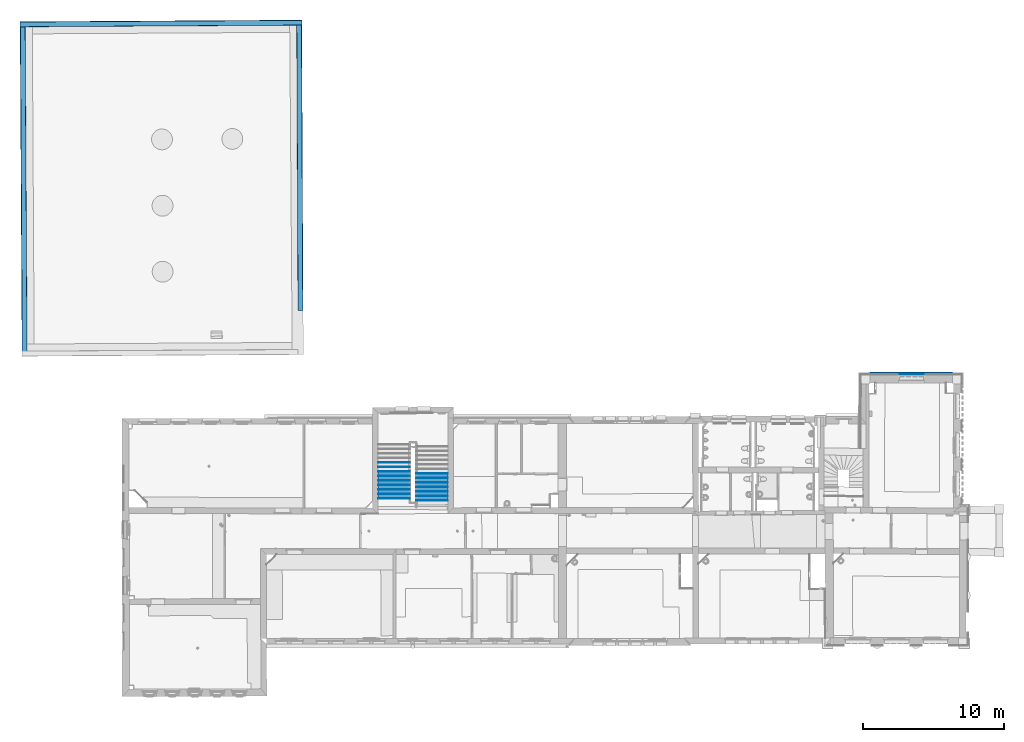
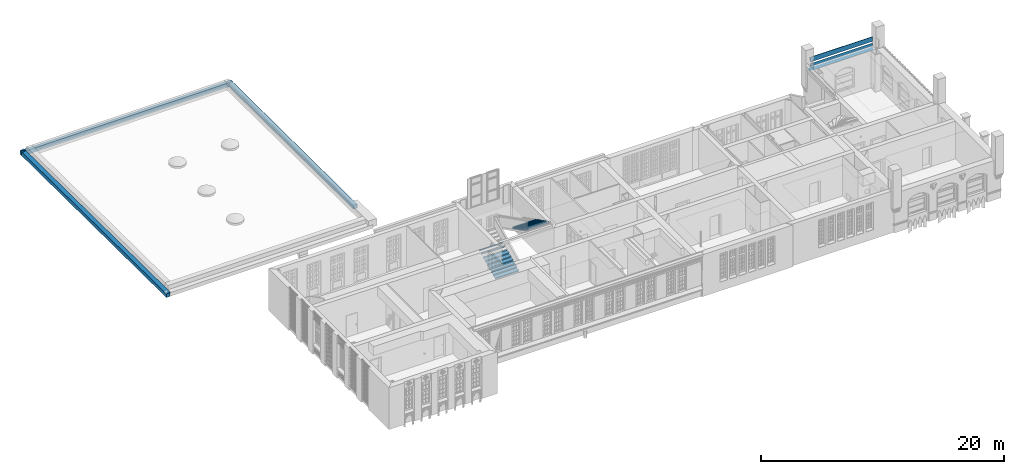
# One storey, part 42 of 90: 37 building element parts, 6 elements without a shape of their own.
"""IFC2X3 building model written with IfcOpenShell, lengths in metres."""

import ifcopenshell
import ifcopenshell.guid

model = None  # the IFC model being written
_history = None  # IfcOwnerHistory: only IFC2X3 demands one
_inside = {}  # id of a spatial element -> (the spatial element, [elements in it])
_under = {}  # id of a project, library or spatial element -> (it, [spatial elements below it])
_declared = {}  # id of a project -> (the project, [libraries it declares])
_typed = {}  # id of a type object -> (the type object, [elements of that type])
_made_of = {}  # id of a material, layer set ... -> (it, [elements and type objects made of it])


def new_model(schema):
    """Start an empty IFC model of exactly this schema.

    Asked for "IFC4X3", IfcOpenShell would pick the latest addendum, in which some entities
    have other attributes; the version numbers below select the first issue.
    IFC2X3 requires an IfcOwnerHistory on every rooted entity: one is made here for all.
    """
    global model, _history
    if schema == "IFC4X3":
        model = ifcopenshell.file(schema_version=(4, 3, 0, 0))
    else:
        model = ifcopenshell.file(schema=schema)
    _inside.clear()
    _under.clear()
    _declared.clear()
    _typed.clear()
    _made_of.clear()
    _history = None
    if model.schema == "IFC2X3":
        org = make("IfcOrganization", Name="unknown")
        user = make(
            "IfcPersonAndOrganization",
            ThePerson=make("IfcPerson", FamilyName="unknown"),
            TheOrganization=org,
        )
        app = make(
            "IfcApplication",
            ApplicationDeveloper=org,
            Version="unknown",
            ApplicationFullName="unknown",
            ApplicationIdentifier="unknown",
        )
        _history = make(
            "IfcOwnerHistory",
            OwningUser=user,
            OwningApplication=app,
            ChangeAction="ADDED",
            CreationDate=0,
        )
    return model


def make(cls, **values):
    """One entity of the class cls with the attributes given. An attribute that is None is left unset."""
    return model.create_entity(
        cls, **{name: value for name, value in values.items() if value is not None}
    )


def entity(cls, *values):
    """Any entity or typed value of the class cls, its attributes in the order of the schema. None: left unset."""
    e = model.create_entity(cls)
    for i, value in enumerate(values):
        if value is not None:
            e[i] = value
    return e


def rooted(cls, **values):
    """An entity with a GlobalId (a new one), such as an element, a storey or a relation."""
    return make(cls, GlobalId=ifcopenshell.guid.new(), OwnerHistory=_history, **values)


def si_unit(unit_type, name, prefix=None):
    """IfcSIUnit, for example si_unit("LENGTHUNIT", "METRE", prefix="MILLI")."""
    return make("IfcSIUnit", UnitType=unit_type, Prefix=prefix, Name=name)


def converted_unit(unit_type, name, factor, base, dimensions=None, offset=None):
    """IfcConversionBasedUnit, such as the inch: factor (a typed value) times the base unit."""
    return make(
        "IfcConversionBasedUnit"
        if offset is None
        else "IfcConversionBasedUnitWithOffset",
        ConversionOffset=offset,
        Dimensions=None
        if dimensions is None
        else entity("IfcDimensionalExponents", *dimensions),
        UnitType=unit_type,
        Name=name,
        ConversionFactor=make(
            "IfcMeasureWithUnit", ValueComponent=factor, UnitComponent=base
        ),
    )


def derived_unit(unit_type, elements):
    """IfcDerivedUnit: a product of units, each with its exponent."""
    return make(
        "IfcDerivedUnit",
        Elements=[
            make("IfcDerivedUnitElement", Unit=unit, Exponent=power)
            for unit, power in elements
        ],
        UnitType=unit_type,
    )


def money_unit(currency):
    """IfcMonetaryUnit."""
    return make("IfcMonetaryUnit", Currency=currency)


def assignment(units):
    """IfcUnitAssignment: the units of a project."""
    return None if units is None else make("IfcUnitAssignment", Units=units)


def point(xyz):
    """IfcCartesianPoint."""
    return None if xyz is None else make("IfcCartesianPoint", Coordinates=xyz)


def direction(xyz):
    """IfcDirection."""
    return None if xyz is None else make("IfcDirection", DirectionRatios=xyz)


def frame(location, z_axis=None, x_axis=None):
    """IfcAxis2Placement3D, a coordinate frame: its origin and axes. An axis left out is left unset."""
    return make(
        "IfcAxis2Placement3D",
        Location=point(location),
        Axis=direction(z_axis),
        RefDirection=direction(x_axis),
    )


def frame_2d(location, x_axis=None):
    """IfcAxis2Placement2D, a coordinate frame in the plane: its origin and x axis."""
    return make(
        "IfcAxis2Placement2D", Location=point(location), RefDirection=direction(x_axis)
    )


def origin_with_axes():
    """The frame at (0, 0, 0) with the z axis (0, 0, 1) and the x axis (1, 0, 0) written out."""
    return frame((0.0, 0.0, 0.0), z_axis=(0.0, 0.0, 1.0), x_axis=(1.0, 0.0, 0.0))


def place(relative_to, where):
    """IfcLocalPlacement: puts the frame where relative to a parent placement (None: the world)."""
    return make(
        "IfcLocalPlacement", PlacementRelTo=relative_to, RelativePlacement=where
    )


def context(
    kind, dimensions, precision=None, world=None, true_north=None, identifier=None
):
    """IfcGeometricRepresentationContext, for example the 3D "Model" context."""
    return make(
        "IfcGeometricRepresentationContext",
        ContextIdentifier=identifier,
        ContextType=kind,
        CoordinateSpaceDimension=dimensions,
        Precision=precision,
        WorldCoordinateSystem=world,
        TrueNorth=true_north,
    )


def subcontext(parent, identifier, kind, view, scale=None):
    """IfcGeometricRepresentationSubContext, for example "Body" below "Model"."""
    return make(
        "IfcGeometricRepresentationSubContext",
        ContextIdentifier=identifier,
        ContextType=kind,
        ParentContext=parent,
        TargetScale=scale,
        TargetView=view,
    )


def project(units=None, contexts=None):
    """IfcProject with its units and contexts."""
    return rooted(
        "IfcProject",
        Name="project",
        RepresentationContexts=contexts,
        UnitsInContext=assignment(units),
    )


def spatial(cls, under=None, at=None, **own):
    """A site, building, storey or space (cls), placed at a placement, below another one or the project."""
    s = rooted(cls, ObjectPlacement=at, **own)
    if under is not None:
        _under.setdefault(under.id(), (under, []))[1].append(s)
    return s


def polyline(points):
    """IfcPolyline through the points."""
    return make("IfcPolyline", Points=[point(p) for p in points])


def circle_curve(where, radius):
    """IfcCircle in the frame where."""
    return make("IfcCircle", Position=where, Radius=radius)


def parameter(value):
    """IfcParameterValue: where a trimmed curve begins or ends, as a parameter of its basis curve."""
    return model.create_entity("IfcParameterValue", value)


def trimmed(basis, trim1, trim2, sense, master):
    """IfcTrimmedCurve: the piece of a basis curve between two trims."""
    return make(
        "IfcTrimmedCurve",
        BasisCurve=basis,
        Trim1=trim1,
        Trim2=trim2,
        SenseAgreement=sense,
        MasterRepresentation=master,
    )


def segment(curve, same_sense, transition):
    """IfcCompositeCurveSegment."""
    return make(
        "IfcCompositeCurveSegment",
        Transition=transition,
        SameSense=same_sense,
        ParentCurve=curve,
    )


def composite_curve(segments, self_intersect=None):
    """IfcCompositeCurve: segments joined end to end."""
    return make("IfcCompositeCurve", Segments=segments, SelfIntersect=self_intersect)


def outline(outer, holes=None, kind="AREA"):
    """IfcArbitraryClosedProfileDef: a profile drawn as a closed curve; with holes, ...WithVoids."""
    if holes is None:
        return make("IfcArbitraryClosedProfileDef", ProfileType=kind, OuterCurve=outer)
    return make(
        "IfcArbitraryProfileDefWithVoids",
        ProfileType=kind,
        OuterCurve=outer,
        InnerCurves=holes,
    )


def extrude(swept, where, along, depth):
    """IfcExtrudedAreaSolid: the profile swept, set in the frame where, extruded along a direction by depth."""
    return make(
        "IfcExtrudedAreaSolid",
        SweptArea=swept,
        Position=where,
        ExtrudedDirection=direction(along),
        Depth=depth,
    )


def faces_of(points, faces, orient=None, outer=None):
    """IfcFace entities. A face is a list of loops; a loop is a list of indices into points, from 0.

    orient and outer hold one flag for each loop. By default every Orientation is true, the
    first loop of a face is its IfcFaceOuterBound and the others are IfcFaceBound.
    """
    made = []
    for i, loops in enumerate(faces):
        bounds = []
        for j, loop in enumerate(loops):
            is_outer = j == 0 if outer is None else outer[i][j]
            bounds.append(
                make(
                    "IfcFaceOuterBound" if is_outer else "IfcFaceBound",
                    Bound=make("IfcPolyLoop", Polygon=[points[k] for k in loop]),
                    Orientation=True if orient is None else orient[i][j],
                )
            )
        made.append(make("IfcFace", Bounds=bounds))
    return made


def faceted_brep(points, faces, orient=None, outer=None, voids=None):
    """IfcFacetedBrep: a solid bounded by flat faces; with voids (closed shells), ...WithVoids."""
    shared = [point(p) for p in points]
    hull = make("IfcClosedShell", CfsFaces=faces_of(shared, faces, orient, outer))
    if voids is None:
        return make("IfcFacetedBrep", Outer=hull)
    return make(
        "IfcFacetedBrepWithVoids",
        Outer=hull,
        Voids=[
            make(cls, CfsFaces=faces_of(shared, fs, o, b)) for cls, fs, o, b in voids
        ],
    )


def shape(context_of_items, identifier, shape_type, items):
    """IfcShapeRepresentation: the items that make up one representation, for example the "Body"."""
    return make(
        "IfcShapeRepresentation",
        ContextOfItems=context_of_items,
        RepresentationIdentifier=identifier,
        RepresentationType=shape_type,
        Items=items,
    )


def material(Name=None, Category=None):
    """IfcMaterial."""
    return make("IfcMaterial", Name=Name, Category=Category)


def made_of(thing, what):
    """Note that an element or type object is made of a material, layer set ...; save() writes the relation."""
    if what is not None:
        _made_of.setdefault(what.id(), (what, []))[1].append(thing)
    return thing


def type_object(cls, material=None, **own):
    """A type object (cls), such as IfcWallType, which elements share."""
    return made_of(rooted(cls, **own), material)


def element(
    cls,
    number,
    at=None,
    inside=None,
    cuts=None,
    type_object=None,
    material=None,
    context=None,
    identifier="Body",
    shape_type=None,
    held_by="IfcProductDefinitionShape",
    body=None,
    shapes=None,
    **own,
):
    """One element of the class cls, such as IfcWall. Its Tag is "e" and its number.

    at: its placement. inside: the storey or other place that contains it. cuts: it is an
    opening in that element (IfcRelVoidsElement). A single representation is given by context,
    identifier, shape_type and body (its items); several are given by shapes. held_by: the class
    of the entity that holds the representations. save() writes the other relations.
    """
    e = rooted(cls, Tag="e%d" % number, ObjectPlacement=at, **own)
    if body is not None:
        shapes = [shape(context, identifier, shape_type, body)]
    if shapes is not None:
        e.Representation = make(held_by, Representations=shapes)
    if inside is not None:
        _inside.setdefault(inside.id(), (inside, []))[1].append(e)
    if cuts is not None:
        rooted(
            "IfcRelVoidsElement", RelatingBuildingElement=cuts, RelatedOpeningElement=e
        )
    if type_object is not None:
        _typed.setdefault(type_object.id(), (type_object, []))[1].append(e)
    return made_of(e, material)


def aggregate(whole, parts):
    """IfcRelAggregates: a whole, such as a stair, and the parts it consists of."""
    return rooted("IfcRelAggregates", RelatingObject=whole, RelatedObjects=parts)


def save(model, path):
    """Write the relations noted so far, then the file.

    IfcRelAggregates (storeys below a building ...), IfcRelContainedInSpatialStructure (elements
    in a storey), IfcRelDefinesByType, IfcRelAssociatesMaterial and IfcRelDeclares: one each for
    every whole, place, type object, material and project.
    """
    for whole, parts in _under.values():
        aggregate(whole, parts)
    for where, things in _inside.values():
        rooted(
            "IfcRelContainedInSpatialStructure",
            RelatedElements=things,
            RelatingStructure=where,
        )
    for kind, things in _typed.values():
        rooted("IfcRelDefinesByType", RelatedObjects=things, RelatingType=kind)
    for what, things in _made_of.values():
        rooted("IfcRelAssociatesMaterial", RelatedObjects=things, RelatingMaterial=what)
    for by, libraries in _declared.values():
        rooted("IfcRelDeclares", RelatingContext=by, RelatedDefinitions=libraries)
    model.write(path)


model = new_model("IFC2X3")

# Units and contexts
model_context = context("Model", 3, precision=1e-05, world=origin_with_axes(), true_north=direction((0.0, 1.0)))
body_context = subcontext(model_context, "Body", "Model", "MODEL_VIEW")
ifc_project = project(units=[si_unit("LENGTHUNIT", "METRE"), si_unit("AREAUNIT", "SQUARE_METRE"), si_unit("VOLUMEUNIT", "CUBIC_METRE"), converted_unit("PLANEANGLEUNIT", "DEGREE", entity("IfcPlaneAngleMeasure", 0.0174532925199), si_unit("PLANEANGLEUNIT", "RADIAN"), dimensions=[0, 0, 0, 0, 0, 0, 0]), money_unit("EUR"), converted_unit("TIMEUNIT", "Year", entity("IfcTimeMeasure", 31556926.0), si_unit("TIMEUNIT", "SECOND"), dimensions=[0, 0, 1, 0, 0, 0, 0]), si_unit("MASSUNIT", "GRAM", prefix="KILO"), si_unit("THERMODYNAMICTEMPERATUREUNIT", "DEGREE_CELSIUS"), si_unit("LUMINOUSINTENSITYUNIT", "LUMEN"), si_unit("ENERGYUNIT", "JOULE", prefix="MEGA"), derived_unit("THERMALCONDUCTANCEUNIT", [(si_unit("POWERUNIT", "WATT"), 1), (si_unit("LENGTHUNIT", "METRE"), -1), (si_unit("THERMODYNAMICTEMPERATUREUNIT", "KELVIN"), -1)]), derived_unit("SPECIFICHEATCAPACITYUNIT", [(si_unit("ENERGYUNIT", "JOULE"), 1), (si_unit("MASSUNIT", "GRAM", prefix="KILO"), -1), (si_unit("THERMODYNAMICTEMPERATUREUNIT", "KELVIN"), -1)]), derived_unit("MASSDENSITYUNIT", [(si_unit("MASSUNIT", "GRAM", prefix="KILO"), 1), (si_unit("VOLUMEUNIT", "CUBIC_METRE"), -1)])], contexts=[model_context])

# Site, building, storey
site_placement = place(None, origin_with_axes())
site = spatial("IfcSite", under=ifc_project, at=site_placement, Name="Gelände", CompositionType="ELEMENT")
building_placement = place(site_placement, origin_with_axes())
building = spatial("IfcBuilding", under=site, at=building_placement, Name="Gebäude", CompositionType="ELEMENT")
storey_placement = place(building_placement, frame((0.0, 0.0, 3.7), z_axis=(0.0, 0.0, 1.0), x_axis=(1.0, 0.0, 0.0)))
storey = spatial("IfcBuildingStorey", under=building, at=storey_placement, Name="1.OBERGESCHOSS", CompositionType="ELEMENT", Elevation=3.7)

# Stair, building element parts
stair_1_placement = place(storey_placement, frame((-9.84157552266, 20.2697661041, 0.0939189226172), z_axis=(0.0, 0.0, 1.0), x_axis=(0.999999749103, -0.000708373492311, 0.0)))
stair_1 = element("IfcStair", 1, at=stair_1_placement, inside=storey, Name="Treppe-003", ShapeType="NOTDEFINED")
ifc_material_1 = material(Name="05_ALLGEMEIN - TRAGENDE BAUTEILE")
building_element_part_1_placement = place(stair_1_placement, origin_with_axes())
building_element_part_1 = element("IfcBuildingElementPart", 2, at=building_element_part_1_placement, material=ifc_material_1, Name="05_ALLGEMEIN - TRAGENDE BAUTEILE", context=body_context, shape_type="Brep", body=[
    faceted_brep([(2.23995915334, 0.0517975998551, 0.116630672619), (2.23992705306, 0.0917975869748, 0.116630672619), (-7.22256410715e-05, 0.0899999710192, 0.116630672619), (-4.01253561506e-05, 0.0499999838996, 0.116630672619), (2.23995915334, 0.0517975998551, 0.0), (2.23992705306, 0.0917975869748, 0.0), (-7.22256410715e-05, 0.0899999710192, 0.0), (-4.01253561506e-05, 0.0499999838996, 0.0)], [[[0, 1, 2, 3]], [[0, 4, 5, 1]], [[1, 5, 6, 2]], [[3, 2, 6, 7]], [[4, 0, 3, 7]], [[5, 4, 7, 6]]]),
])
building_element_part_2_placement = place(stair_1_placement, origin_with_axes())
building_element_part_2 = element("IfcBuildingElementPart", 3, at=building_element_part_2_placement, material=ifc_material_1, Name="05_ALLGEMEIN - TRAGENDE BAUTEILE", context=body_context, shape_type="Brep", body=[
    faceted_brep([(2.23970094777, 0.373546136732, 0.273261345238), (2.23966884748, 0.413546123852, 0.273261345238), (-0.000330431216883, 0.411748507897, 0.273261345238), (-0.00029833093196, 0.371748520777, 0.273261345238), (2.23970094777, 0.373546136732, 0.156630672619), (2.23966884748, 0.413546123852, 0.156630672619), (-0.000330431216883, 0.411748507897, 0.156630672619), (-0.00029833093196, 0.371748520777, 0.156630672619)], [[[0, 1, 2, 3]], [[0, 4, 5, 1]], [[1, 5, 6, 2]], [[3, 2, 6, 7]], [[4, 0, 3, 7]], [[5, 4, 7, 6]]]),
])
building_element_part_3_placement = place(stair_1_placement, origin_with_axes())
building_element_part_3 = element("IfcBuildingElementPart", 4, at=building_element_part_3_placement, material=ifc_material_1, Name="05_ALLGEMEIN - TRAGENDE BAUTEILE", context=body_context, shape_type="Brep", body=[
    faceted_brep([(2.23944274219, 0.69529467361, 0.429892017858), (2.23941064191, 0.735294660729, 0.429892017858), (-0.000588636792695, 0.733497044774, 0.429892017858), (-0.000556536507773, 0.693497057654, 0.429892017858), (2.23944274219, 0.69529467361, 0.313261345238), (2.23941064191, 0.735294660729, 0.313261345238), (-0.000588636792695, 0.733497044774, 0.313261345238), (-0.000556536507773, 0.693497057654, 0.313261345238)], [[[0, 1, 2, 3]], [[0, 4, 5, 1]], [[1, 5, 6, 2]], [[3, 2, 6, 7]], [[4, 0, 3, 7]], [[5, 4, 7, 6]]]),
])
building_element_part_4_placement = place(stair_1_placement, origin_with_axes())
building_element_part_4 = element("IfcBuildingElementPart", 5, at=building_element_part_4_placement, material=ifc_material_1, Name="05_ALLGEMEIN - TRAGENDE BAUTEILE", context=body_context, shape_type="Brep", body=[
    faceted_brep([(2.23918453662, 1.01704321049, 0.586522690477), (2.23915243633, 1.05704319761, 0.586522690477), (-0.000846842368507, 1.05524558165, 0.586522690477), (-0.000814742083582, 1.01524559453, 0.586522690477), (2.23918453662, 1.01704321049, 0.469892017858), (2.23915243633, 1.05704319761, 0.469892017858), (-0.000846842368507, 1.05524558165, 0.469892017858), (-0.000814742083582, 1.01524559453, 0.469892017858)], [[[0, 1, 2, 3]], [[0, 4, 5, 1]], [[1, 5, 6, 2]], [[3, 2, 6, 7]], [[4, 0, 3, 7]], [[5, 4, 7, 6]]]),
])
building_element_part_5_placement = place(stair_1_placement, origin_with_axes())
building_element_part_5 = element("IfcBuildingElementPart", 6, at=building_element_part_5_placement, material=ifc_material_1, Name="05_ALLGEMEIN - TRAGENDE BAUTEILE", context=body_context, shape_type="Brep", body=[
    faceted_brep([(2.23892633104, 1.33879174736, 0.743153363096), (2.23889423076, 1.37879173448, 0.743153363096), (-0.00110504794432, 1.37699411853, 0.743153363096), (-0.0010729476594, 1.33699413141, 0.743153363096), (2.23892633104, 1.33879174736, 0.626522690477), (2.23889423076, 1.37879173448, 0.626522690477), (-0.00110504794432, 1.37699411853, 0.626522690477), (-0.0010729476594, 1.33699413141, 0.626522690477)], [[[0, 1, 2, 3]], [[0, 4, 5, 1]], [[1, 5, 6, 2]], [[3, 2, 6, 7]], [[4, 0, 3, 7]], [[5, 4, 7, 6]]]),
])
building_element_part_6_placement = place(stair_1_placement, origin_with_axes())
building_element_part_6 = element("IfcBuildingElementPart", 7, at=building_element_part_6_placement, material=ifc_material_1, Name="05_ALLGEMEIN - TRAGENDE BAUTEILE", context=body_context, shape_type="Brep", body=[
    faceted_brep([(2.23866812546, 1.66054028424, 0.899784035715), (2.23863602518, 1.70054027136, 0.899784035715), (-0.00136325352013, 1.69874265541, 0.899784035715), (-0.00133115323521, 1.65874266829, 0.899784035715), (2.23866812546, 1.66054028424, 0.783153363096), (2.23863602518, 1.70054027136, 0.783153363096), (-0.00136325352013, 1.69874265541, 0.783153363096), (-0.00133115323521, 1.65874266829, 0.783153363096)], [[[0, 1, 2, 3]], [[0, 4, 5, 1]], [[1, 5, 6, 2]], [[3, 2, 6, 7]], [[4, 0, 3, 7]], [[5, 4, 7, 6]]]),
])
building_element_part_7_placement = place(stair_1_placement, origin_with_axes())
building_element_part_7 = element("IfcBuildingElementPart", 8, at=building_element_part_7_placement, material=ifc_material_1, Name="05_ALLGEMEIN - TRAGENDE BAUTEILE", context=body_context, shape_type="Brep", body=[
    faceted_brep([(2.23840991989, 1.98228882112, 1.05641470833), (2.2383778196, 2.02228880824, 1.05641470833), (-0.00162145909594, 2.02049119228, 1.05641470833), (-0.00158935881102, 1.98049120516, 1.05641470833), (2.23840991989, 1.98228882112, 0.939784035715), (2.2383778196, 2.02228880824, 0.939784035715), (-0.00162145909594, 2.02049119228, 0.939784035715), (-0.00158935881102, 1.98049120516, 0.939784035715)], [[[0, 1, 2, 3]], [[0, 4, 5, 1]], [[1, 5, 6, 2]], [[3, 2, 6, 7]], [[4, 0, 3, 7]], [[5, 4, 7, 6]]]),
])
building_element_part_8_placement = place(stair_1_placement, origin_with_axes())
building_element_part_8 = element("IfcBuildingElementPart", 9, at=building_element_part_8_placement, material=ifc_material_1, Name="05_ALLGEMEIN - TRAGENDE BAUTEILE", context=body_context, shape_type="Brep", body=[
    faceted_brep([(2.23815171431, 2.304037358, 1.21304538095), (2.23811961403, 2.34403734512, 1.21304538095), (-0.00187966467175, 2.34223972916, 1.21304538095), (-0.00184756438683, 2.30223974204, 1.21304538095), (2.23815171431, 2.304037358, 1.09641470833), (2.23811961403, 2.34403734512, 1.09641470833), (-0.00187966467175, 2.34223972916, 1.09641470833), (-0.00184756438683, 2.30223974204, 1.09641470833)], [[[0, 1, 2, 3]], [[0, 4, 5, 1]], [[1, 5, 6, 2]], [[3, 2, 6, 7]], [[4, 0, 3, 7]], [[5, 4, 7, 6]]]),
])
building_element_part_9_placement = place(stair_1_placement, origin_with_axes())
building_element_part_9 = element("IfcBuildingElementPart", 10, at=building_element_part_9_placement, material=ifc_material_1, Name="05_ALLGEMEIN - TRAGENDE BAUTEILE", context=body_context, shape_type="Brep", body=[
    faceted_brep([(2.23789350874, 2.62578589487, 1.36967605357), (2.23786140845, 2.66578588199, 1.36967605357), (-0.00213787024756, 2.66398826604, 1.36967605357), (-0.00210576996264, 2.62398827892, 1.36967605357), (2.23789350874, 2.62578589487, 1.25304538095), (2.23786140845, 2.66578588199, 1.25304538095), (-0.00213787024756, 2.66398826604, 1.25304538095), (-0.00210576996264, 2.62398827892, 1.25304538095)], [[[0, 1, 2, 3]], [[0, 4, 5, 1]], [[1, 5, 6, 2]], [[3, 2, 6, 7]], [[4, 0, 3, 7]], [[5, 4, 7, 6]]]),
])
building_element_part_10_placement = place(stair_1_placement, origin_with_axes())
building_element_part_10 = element("IfcBuildingElementPart", 11, at=building_element_part_10_placement, material=ifc_material_1, Name="05_ALLGEMEIN - TRAGENDE BAUTEILE", context=body_context, shape_type="Brep", body=[
    faceted_brep([(0.0, 0.0, 0.116630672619), (2.2399992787, 0.00179761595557, 0.116630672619), (2.2399992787, 0.00179761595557, 0.156630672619), (0.0, 0.0, 0.156630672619), (-0.000330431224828, 0.411748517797, 0.116630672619), (2.23966884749, 0.413546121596, 0.116630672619), (2.23966884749, 0.413546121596, 0.156630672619), (-0.000330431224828, 0.411748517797, 0.156630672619)], [[[0, 1, 2, 3]], [[0, 4, 5, 1]], [[1, 5, 6, 2]], [[3, 2, 6, 7]], [[4, 0, 3, 7]], [[5, 4, 7, 6]]]),
])
building_element_part_11_placement = place(stair_1_placement, origin_with_axes())
building_element_part_11 = element("IfcBuildingElementPart", 12, at=building_element_part_11_placement, material=ifc_material_1, Name="05_ALLGEMEIN - TRAGENDE BAUTEILE", context=body_context, shape_type="Brep", body=[
    faceted_brep([(-0.000258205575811, 0.321748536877, 0.273261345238), (2.23974107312, 0.323546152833, 0.273261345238), (2.23974107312, 0.323546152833, 0.313261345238), (-0.000258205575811, 0.321748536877, 0.313261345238), (-0.00058863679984, 0.733497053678, 0.273261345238), (2.23941064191, 0.735294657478, 0.273261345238), (2.23941064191, 0.735294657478, 0.313261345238), (-0.00058863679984, 0.733497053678, 0.313261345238)], [[[0, 1, 2, 3]], [[0, 4, 5, 1]], [[1, 5, 6, 2]], [[3, 2, 6, 7]], [[4, 0, 3, 7]], [[5, 4, 7, 6]]]),
])
building_element_part_12_placement = place(stair_1_placement, origin_with_axes())
building_element_part_12 = element("IfcBuildingElementPart", 13, at=building_element_part_12_placement, material=ifc_material_1, Name="05_ALLGEMEIN - TRAGENDE BAUTEILE", context=body_context, shape_type="Brep", body=[
    faceted_brep([(-0.000516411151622, 0.643497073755, 0.429892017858), (2.23948286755, 0.64529468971, 0.429892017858), (2.23948286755, 0.64529468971, 0.469892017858), (-0.000516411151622, 0.643497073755, 0.469892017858), (-0.000846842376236, 1.05524559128, 0.429892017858), (2.23915243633, 1.05704319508, 0.429892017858), (2.23915243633, 1.05704319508, 0.469892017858), (-0.000846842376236, 1.05524559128, 0.469892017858)], [[[0, 1, 2, 3]], [[0, 4, 5, 1]], [[1, 5, 6, 2]], [[3, 2, 6, 7]], [[4, 0, 3, 7]], [[5, 4, 7, 6]]]),
])
building_element_part_13_placement = place(stair_1_placement, origin_with_axes())
building_element_part_13 = element("IfcBuildingElementPart", 14, at=building_element_part_13_placement, material=ifc_material_1, Name="05_ALLGEMEIN - TRAGENDE BAUTEILE", context=body_context, shape_type="Brep", body=[
    faceted_brep([(-0.000774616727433, 0.965245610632, 0.586522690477), (2.23922466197, 0.967043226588, 0.586522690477), (2.23922466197, 0.967043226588, 0.626522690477), (-0.000774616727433, 0.965245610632, 0.626522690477), (-0.00110504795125, 1.37699412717, 0.586522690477), (2.23889423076, 1.37879173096, 0.586522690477), (2.23889423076, 1.37879173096, 0.626522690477), (-0.00110504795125, 1.37699412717, 0.626522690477)], [[[0, 1, 2, 3]], [[0, 4, 5, 1]], [[1, 5, 6, 2]], [[3, 2, 6, 7]], [[4, 0, 3, 7]], [[5, 4, 7, 6]]]),
])
building_element_part_14_placement = place(stair_1_placement, origin_with_axes())
building_element_part_14 = element("IfcBuildingElementPart", 15, at=building_element_part_14_placement, material=ifc_material_1, Name="05_ALLGEMEIN - TRAGENDE BAUTEILE", context=body_context, shape_type="Brep", body=[
    faceted_brep([(-0.00103282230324, 1.28699414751, 0.743153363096), (2.2389664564, 1.28879176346, 0.743153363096), (2.2389664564, 1.28879176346, 0.783153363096), (-0.00103282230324, 1.28699414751, 0.783153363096), (-0.00136325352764, 1.69874266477, 0.743153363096), (2.23863602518, 1.70054026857, 0.743153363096), (2.23863602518, 1.70054026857, 0.783153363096), (-0.00136325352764, 1.69874266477, 0.783153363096)], [[[0, 1, 2, 3]], [[0, 4, 5, 1]], [[1, 5, 6, 2]], [[3, 2, 6, 7]], [[4, 0, 3, 7]], [[5, 4, 7, 6]]]),
])
building_element_part_15_placement = place(stair_1_placement, origin_with_axes())
building_element_part_15 = element("IfcBuildingElementPart", 16, at=building_element_part_15_placement, material=ifc_material_1, Name="05_ALLGEMEIN - TRAGENDE BAUTEILE", context=body_context, shape_type="Brep", body=[
    faceted_brep([(-0.00129102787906, 1.60874268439, 0.899784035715), (2.23870825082, 1.61054030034, 0.899784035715), (2.23870825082, 1.61054030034, 0.939784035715), (-0.00129102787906, 1.60874268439, 0.939784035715), (-0.00162145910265, 2.02049120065, 0.899784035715), (2.23837781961, 2.02228880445, 0.899784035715), (2.23837781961, 2.02228880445, 0.939784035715), (-0.00162145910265, 2.02049120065, 0.939784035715)], [[[0, 1, 2, 3]], [[0, 4, 5, 1]], [[1, 5, 6, 2]], [[3, 2, 6, 7]], [[4, 0, 3, 7]], [[5, 4, 7, 6]]]),
])
aggregate(stair_1, [building_element_part_1, building_element_part_2, building_element_part_3, building_element_part_4, building_element_part_5, building_element_part_6, building_element_part_7, building_element_part_8, building_element_part_9, building_element_part_10, building_element_part_11, building_element_part_12, building_element_part_13, building_element_part_14, building_element_part_15])

stair_2_placement = place(storey_placement, frame((-4.87334172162, 23.8045853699, 2.13011766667), z_axis=(0.0, 0.0, 1.0), x_axis=(-0.999999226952, 0.00124342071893, 0.0)))
stair_2 = element("IfcStair", 17, at=stair_2_placement, inside=storey, Name="Treppe-003", ShapeType="NOTDEFINED")
building_element_part_16_placement = place(stair_2_placement, origin_with_axes())
building_element_part_16 = element("IfcBuildingElementPart", 18, at=building_element_part_16_placement, material=ifc_material_1, Name="05_ALLGEMEIN - TRAGENDE BAUTEILE", context=body_context, shape_type="Brep", body=[
    faceted_brep([(2.23867983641, 1.65785427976, 1.10994116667), (2.23864501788, 1.6978542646, 1.10994116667), (-0.00135413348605, 1.69590442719, 1.10994116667), (-0.00131931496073, 1.65590444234, 1.10994116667), (2.23867983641, 1.65785427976, 0.985663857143), (2.23864501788, 1.6978542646, 0.985663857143), (-0.00135413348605, 1.69590442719, 0.985663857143), (-0.00131931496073, 1.65590444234, 0.985663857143)], [[[0, 1, 2, 3]], [[0, 4, 5, 1]], [[1, 5, 6, 2]], [[3, 2, 6, 7]], [[4, 0, 3, 7]], [[5, 4, 7, 6]]]),
])
building_element_part_17_placement = place(stair_2_placement, origin_with_axes())
building_element_part_17 = element("IfcBuildingElementPart", 19, at=building_element_part_17_placement, material=ifc_material_1, Name="05_ALLGEMEIN - TRAGENDE BAUTEILE", context=body_context, shape_type="Brep", body=[
    faceted_brep([(2.2383993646, 1.98006401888, 1.27421847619), (2.23836454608, 2.02006400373, 1.27421847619), (-0.00163460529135, 2.01811416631, 1.27421847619), (-0.00159978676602, 1.97811418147, 1.27421847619), (2.2383993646, 1.98006401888, 1.14994116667), (2.23836454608, 2.02006400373, 1.14994116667), (-0.00163460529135, 2.01811416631, 1.14994116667), (-0.00159978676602, 1.97811418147, 1.14994116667)], [[[0, 1, 2, 3]], [[0, 4, 5, 1]], [[1, 5, 6, 2]], [[3, 2, 6, 7]], [[4, 0, 3, 7]], [[5, 4, 7, 6]]]),
])
building_element_part_18_placement = place(stair_2_placement, origin_with_axes())
building_element_part_18 = element("IfcBuildingElementPart", 20, at=building_element_part_18_placement, material=ifc_material_1, Name="05_ALLGEMEIN - TRAGENDE BAUTEILE", context=body_context, shape_type="Brep", body=[
    faceted_brep([(2.2381188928, 2.30227375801, 1.43849578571), (2.23808407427, 2.34227374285, 1.43849578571), (-0.00191507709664, 2.34032390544, 1.43849578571), (-0.00188025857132, 2.30032392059, 1.43849578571), (2.2381188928, 2.30227375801, 1.31421847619), (2.23808407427, 2.34227374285, 1.31421847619), (-0.00191507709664, 2.34032390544, 1.31421847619), (-0.00188025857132, 2.30032392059, 1.31421847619)], [[[0, 1, 2, 3]], [[0, 4, 5, 1]], [[1, 5, 6, 2]], [[3, 2, 6, 7]], [[4, 0, 3, 7]], [[5, 4, 7, 6]]]),
])
building_element_part_19_placement = place(stair_2_placement, origin_with_axes())
building_element_part_19 = element("IfcBuildingElementPart", 21, at=building_element_part_19_placement, material=ifc_material_1, Name="05_ALLGEMEIN - TRAGENDE BAUTEILE", context=body_context, shape_type="Brep", body=[
    faceted_brep([(2.23783842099, 2.62448349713, 1.60277309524), (2.23780360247, 2.66448348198, 1.60277309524), (-0.00219554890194, 2.66253364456, 1.60277309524), (-0.00216073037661, 2.62253365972, 1.60277309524), (2.23783842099, 2.62448349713, 1.47849578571), (2.23780360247, 2.66448348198, 1.47849578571), (-0.00219554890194, 2.66253364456, 1.47849578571), (-0.00216073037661, 2.62253365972, 1.47849578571)], [[[0, 1, 2, 3]], [[0, 4, 5, 1]], [[1, 5, 6, 2]], [[3, 2, 6, 7]], [[4, 0, 3, 7]], [[5, 4, 7, 6]]]),
])
building_element_part_20_placement = place(stair_2_placement, origin_with_axes())
building_element_part_20 = element("IfcBuildingElementPart", 22, at=building_element_part_20_placement, material=ifc_material_1, Name="05_ALLGEMEIN - TRAGENDE BAUTEILE", context=body_context, shape_type="Brep", body=[
    faceted_brep([(2.23755794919, 2.94669323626, 1.76705040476), (2.23752313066, 2.98669322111, 1.76705040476), (-0.00247602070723, 2.98474338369, 1.76705040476), (-0.00244120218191, 2.94474339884, 1.76705040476), (2.23755794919, 2.94669323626, 1.64277309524), (2.23752313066, 2.98669322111, 1.64277309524), (-0.00247602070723, 2.98474338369, 1.64277309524), (-0.00244120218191, 2.94474339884, 1.64277309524)], [[[0, 1, 2, 3]], [[0, 4, 5, 1]], [[1, 5, 6, 2]], [[3, 2, 6, 7]], [[4, 0, 3, 7]], [[5, 4, 7, 6]]]),
])
building_element_part_21_placement = place(stair_2_placement, origin_with_axes())
building_element_part_21 = element("IfcBuildingElementPart", 23, at=building_element_part_21_placement, material=ifc_material_1, Name="05_ALLGEMEIN - TRAGENDE BAUTEILE", context=body_context, shape_type="Brep", body=[
    faceted_brep([(2.23727747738, 3.26890297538, 1.93132771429), (2.23724265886, 3.30890296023, 1.93132771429), (-0.00275649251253, 3.30695312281, 1.93132771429), (-0.0027216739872, 3.26695313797, 1.93132771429), (2.23727747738, 3.26890297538, 1.80705040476), (2.23724265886, 3.30890296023, 1.80705040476), (-0.00275649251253, 3.30695312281, 1.80705040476), (-0.0027216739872, 3.26695313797, 1.80705040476)], [[[0, 1, 2, 3]], [[0, 4, 5, 1]], [[1, 5, 6, 2]], [[3, 2, 6, 7]], [[4, 0, 3, 7]], [[5, 4, 7, 6]]]),
])
building_element_part_22_placement = place(stair_2_placement, origin_with_axes())
building_element_part_22 = element("IfcBuildingElementPart", 24, at=building_element_part_22_placement, material=ifc_material_1, Name="05_ALLGEMEIN - TRAGENDE BAUTEILE", context=body_context, shape_type="Brep", body=[
    faceted_brep([(2.23699700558, 3.59111271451, 2.09560502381), (2.23696218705, 3.63111269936, 2.09560502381), (-0.00303696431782, 3.62916286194, 2.09560502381), (-0.0030021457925, 3.58916287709, 2.09560502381), (2.23699700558, 3.59111271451, 1.97132771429), (2.23696218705, 3.63111269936, 1.97132771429), (-0.00303696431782, 3.62916286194, 1.97132771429), (-0.0030021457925, 3.58916287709, 1.97132771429)], [[[0, 1, 2, 3]], [[0, 4, 5, 1]], [[1, 5, 6, 2]], [[3, 2, 6, 7]], [[4, 0, 3, 7]], [[5, 4, 7, 6]]]),
])
building_element_part_23_placement = place(stair_2_placement, origin_with_axes())
building_element_part_23 = element("IfcBuildingElementPart", 25, at=building_element_part_23_placement, material=ifc_material_1, Name="05_ALLGEMEIN - TRAGENDE BAUTEILE", context=body_context, shape_type="Brep", body=[
    faceted_brep([(-0.00127579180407, 1.60590446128, 1.10994116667), (2.23872335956, 1.6078542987, 1.10994116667), (2.23872335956, 1.6078542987, 1.14994116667), (-0.00127579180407, 1.60590446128, 1.14994116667), (-0.00163460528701, 2.01811416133, 1.10994116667), (2.23836454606, 2.02006401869, 1.10994116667), (2.23836454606, 2.02006401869, 1.14994116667), (-0.00163460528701, 2.01811416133, 1.14994116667)], [[[0, 1, 2, 3]], [[0, 4, 5, 1]], [[1, 5, 6, 2]], [[3, 2, 6, 7]], [[4, 0, 3, 7]], [[5, 4, 7, 6]]]),
])
building_element_part_24_placement = place(stair_2_placement, origin_with_axes())
building_element_part_24 = element("IfcBuildingElementPart", 26, at=building_element_part_24_placement, material=ifc_material_1, Name="05_ALLGEMEIN - TRAGENDE BAUTEILE", context=body_context, shape_type="Brep", body=[
    faceted_brep([(-0.00155626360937, 1.92811420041, 1.27421847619), (2.23844288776, 1.93006403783, 1.27421847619), (2.23844288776, 1.93006403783, 1.31421847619), (-0.00155626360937, 1.92811420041, 1.31421847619), (-0.00191507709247, 2.34032390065, 1.27421847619), (2.23808407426, 2.34227375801, 1.27421847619), (2.23808407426, 2.34227375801, 1.31421847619), (-0.00191507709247, 2.34032390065, 1.31421847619)], [[[0, 1, 2, 3]], [[0, 4, 5, 1]], [[1, 5, 6, 2]], [[3, 2, 6, 7]], [[4, 0, 3, 7]], [[5, 4, 7, 6]]]),
])
building_element_part_25_placement = place(stair_2_placement, origin_with_axes())
building_element_part_25 = element("IfcBuildingElementPart", 27, at=building_element_part_25_placement, material=ifc_material_1, Name="05_ALLGEMEIN - TRAGENDE BAUTEILE", context=body_context, shape_type="Brep", body=[
    faceted_brep([(-0.00183673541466, 2.25032393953, 1.43849578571), (2.23816241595, 2.25227377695, 1.43849578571), (2.23816241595, 2.25227377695, 1.47849578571), (-0.00183673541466, 2.25032393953, 1.47849578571), (-0.00219554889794, 2.66253363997, 1.43849578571), (2.23780360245, 2.66448349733, 1.43849578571), (2.23780360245, 2.66448349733, 1.47849578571), (-0.00219554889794, 2.66253363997, 1.47849578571)], [[[0, 1, 2, 3]], [[0, 4, 5, 1]], [[1, 5, 6, 2]], [[3, 2, 6, 7]], [[4, 0, 3, 7]], [[5, 4, 7, 6]]]),
])
building_element_part_26_placement = place(stair_2_placement, origin_with_axes())
building_element_part_26 = element("IfcBuildingElementPart", 28, at=building_element_part_26_placement, material=ifc_material_1, Name="05_ALLGEMEIN - TRAGENDE BAUTEILE", context=body_context, shape_type="Brep", body=[
    faceted_brep([(-0.00211720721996, 2.57253367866, 1.60277309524), (2.23788194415, 2.57448351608, 1.60277309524), (2.23788194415, 2.57448351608, 1.64277309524), (-0.00211720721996, 2.57253367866, 1.64277309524), (-0.0024760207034, 2.98474337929, 1.60277309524), (2.23752313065, 2.98669323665, 1.60277309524), (2.23752313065, 2.98669323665, 1.64277309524), (-0.0024760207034, 2.98474337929, 1.64277309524)], [[[0, 1, 2, 3]], [[0, 4, 5, 1]], [[1, 5, 6, 2]], [[3, 2, 6, 7]], [[4, 0, 3, 7]], [[5, 4, 7, 6]]]),
])
building_element_part_27_placement = place(stair_2_placement, origin_with_axes())
building_element_part_27 = element("IfcBuildingElementPart", 29, at=building_element_part_27_placement, material=ifc_material_1, Name="05_ALLGEMEIN - TRAGENDE BAUTEILE", context=body_context, shape_type="Brep", body=[
    faceted_brep([(-0.00239767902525, 2.89474341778, 1.76705040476), (2.23760147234, 2.8966932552, 1.76705040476), (2.23760147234, 2.8966932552, 1.80705040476), (-0.00239767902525, 2.89474341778, 1.80705040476), (-0.00275649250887, 3.30695311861, 1.76705040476), (2.23724265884, 3.30890297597, 1.76705040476), (2.23724265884, 3.30890297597, 1.80705040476), (-0.00275649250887, 3.30695311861, 1.80705040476)], [[[0, 1, 2, 3]], [[0, 4, 5, 1]], [[1, 5, 6, 2]], [[3, 2, 6, 7]], [[4, 0, 3, 7]], [[5, 4, 7, 6]]]),
])
building_element_part_28_placement = place(stair_2_placement, origin_with_axes())
building_element_part_28 = element("IfcBuildingElementPart", 30, at=building_element_part_28_placement, material=ifc_material_1, Name="05_ALLGEMEIN - TRAGENDE BAUTEILE", context=body_context, shape_type="Brep", body=[
    faceted_brep([(-0.00267815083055, 3.21695315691, 1.93132771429), (2.23732100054, 3.21890299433, 1.93132771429), (2.23732100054, 3.21890299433, 1.97132771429), (-0.00267815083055, 3.21695315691, 1.97132771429), (-0.00303696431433, 3.62916285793, 1.93132771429), (2.23696218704, 3.63111271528, 1.93132771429), (2.23696218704, 3.63111271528, 1.97132771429), (-0.00303696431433, 3.62916285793, 1.97132771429)], [[[0, 1, 2, 3]], [[0, 4, 5, 1]], [[1, 5, 6, 2]], [[3, 2, 6, 7]], [[4, 0, 3, 7]], [[5, 4, 7, 6]]]),
])
aggregate(stair_2, [building_element_part_16, building_element_part_17, building_element_part_18, building_element_part_19, building_element_part_20, building_element_part_21, building_element_part_22, building_element_part_23, building_element_part_24, building_element_part_25, building_element_part_26, building_element_part_27, building_element_part_28])

# Beam, building element parts
beam_type = type_object("IfcBeamType", Name="sims 374 x 425", PredefinedType="LINTEL")
beam_1_placement = place(storey_placement, frame((-15.1775961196, 33.7393280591, 1.34309458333), z_axis=(0.0, 0.0, 1.0), x_axis=(0.999989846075, 0.00450641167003, 0.0)))
beam_1 = element("IfcBeam", 31, at=beam_1_placement, inside=storey, type_object=beam_type, Name="Unterzug-083", ObjectType="LINTEL")
ifc_material_2 = material(Name="33_Dach, Stehfalz")
building_element_part_29_placement = place(beam_1_placement, origin_with_axes())
building_element_part_29 = element("IfcBuildingElementPart", 32, at=building_element_part_29_placement, material=ifc_material_2, Name="33_Dach, Stehfalz", context=body_context, shape_type="SweptSolid", body=[
    extrude(outline(polyline([(-0.365694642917, 0.0339233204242), (-0.0211704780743, -0.0168783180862), (-0.0221454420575, -0.363606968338), (0.0, -0.369517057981), (0.0, 0.0), (-0.374024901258, 0.0551516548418), (-0.365694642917, 0.0339233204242)])), frame((0.0, 20.6606979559, 0.0), z_axis=(0.0, -1.0, 0.0), x_axis=(1.0, 0.0, 0.0)), (0.0, 0.0, 1.0), 20.6606979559),
])
building_element_part_30_placement = place(beam_1_placement, origin_with_axes())
building_element_part_30 = element("IfcBuildingElementPart", 33, at=building_element_part_30_placement, material=ifc_material_1, Name="05_ALLGEMEIN - TRAGENDE BAUTEILE", context=body_context, shape_type="SweptSolid", body=[
    extrude(outline(polyline([(-0.0211704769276, -0.0168783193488), (-0.365694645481, 0.0339233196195), (-0.365694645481, -0.363544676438), (-0.0221454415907, -0.36360696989), (-0.0211704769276, -0.0168783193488)])), frame((0.0, 20.6606979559, 0.0), z_axis=(0.0, -1.0, 0.0), x_axis=(1.0, 0.0, 0.0)), (0.0, 0.0, 1.0), 20.6606979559),
])
aggregate(beam_1, [building_element_part_29, building_element_part_30])

beam_2_placement = place(storey_placement, frame((-35.3261797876, 54.2813351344, 1.34309458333), z_axis=(0.0, 0.0, 1.0), x_axis=(-0.999982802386, -0.00586471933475, 0.0)))
beam_2 = element("IfcBeam", 34, at=beam_2_placement, inside=storey, type_object=beam_type, Name="Unterzug-083", ObjectType="LINTEL")
building_element_part_31_placement = place(beam_2_placement, origin_with_axes())
building_element_part_31 = element("IfcBuildingElementPart", 35, at=building_element_part_31_placement, material=ifc_material_2, Name="33_Dach, Stehfalz", context=body_context, shape_type="SweptSolid", body=[
    extrude(outline(polyline([(-0.365694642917, 0.0339233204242), (-0.0211704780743, -0.0168783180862), (-0.0221454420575, -0.363606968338), (0.0, -0.369517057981), (0.0, 0.0), (-0.374024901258, 0.0551516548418), (-0.365694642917, 0.0339233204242)])), frame((0.0, 23.8167544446, 0.0), z_axis=(0.0, -1.0, 0.0), x_axis=(1.0, 0.0, 0.0)), (0.0, 0.0, 1.0), 23.8167544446),
])
building_element_part_32_placement = place(beam_2_placement, origin_with_axes())
building_element_part_32 = element("IfcBuildingElementPart", 36, at=building_element_part_32_placement, material=ifc_material_1, Name="05_ALLGEMEIN - TRAGENDE BAUTEILE", context=body_context, shape_type="SweptSolid", body=[
    extrude(outline(polyline([(-0.0211704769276, -0.0168783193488), (-0.365694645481, 0.0339233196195), (-0.365694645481, -0.363544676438), (-0.0221454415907, -0.36360696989), (-0.0211704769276, -0.0168783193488)])), frame((0.0, 23.8167544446, 0.0), z_axis=(0.0, -1.0, 0.0), x_axis=(1.0, 0.0, 0.0)), (0.0, 0.0, 1.0), 23.8167544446),
])
aggregate(beam_2, [building_element_part_31, building_element_part_32])

beam_3_placement = place(storey_placement, frame((-15.2707017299, 54.3998162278, 1.34309458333), z_axis=(0.0, 0.0, 1.0), x_axis=(-0.00590756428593, 0.99998255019, 0.0)))
beam_3 = element("IfcBeam", 37, at=beam_3_placement, inside=storey, type_object=beam_type, Name="Unterzug-083", ObjectType="LINTEL")
building_element_part_33_placement = place(beam_3_placement, origin_with_axes())
building_element_part_33 = element("IfcBuildingElementPart", 38, at=building_element_part_33_placement, material=ifc_material_2, Name="33_Dach, Stehfalz", context=body_context, shape_type="SweptSolid", body=[
    extrude(outline(polyline([(-0.365694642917, 0.0339233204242), (-0.0211704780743, -0.0168783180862), (-0.0221454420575, -0.363606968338), (0.0, -0.369517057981), (0.0, 0.0), (-0.374024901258, 0.0551516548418), (-0.365694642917, 0.0339233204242)])), frame((0.0, 20.0558280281, 0.0), z_axis=(0.0, -1.0, 0.0), x_axis=(1.0, 0.0, 0.0)), (0.0, 0.0, 1.0), 20.0558280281),
])
building_element_part_34_placement = place(beam_3_placement, origin_with_axes())
building_element_part_34 = element("IfcBuildingElementPart", 39, at=building_element_part_34_placement, material=ifc_material_1, Name="05_ALLGEMEIN - TRAGENDE BAUTEILE", context=body_context, shape_type="SweptSolid", body=[
    extrude(outline(polyline([(-0.0211704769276, -0.0168783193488), (-0.365694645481, 0.0339233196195), (-0.365694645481, -0.363544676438), (-0.0221454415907, -0.36360696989), (-0.0211704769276, -0.0168783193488)])), frame((0.0, 20.0558280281, 0.0), z_axis=(0.0, -1.0, 0.0), x_axis=(1.0, 0.0, 0.0)), (0.0, 0.0, 1.0), 20.0558280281),
])
aggregate(beam_3, [building_element_part_33, building_element_part_34])

# Wall, building element parts
wall_type = type_object("IfcWallType", Name="Fassade Sims 1 191 x 1241", PredefinedType="ELEMENTEDWALL")
wall_placement = place(storey_placement, frame((25.1443089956, 29.1484704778, 4.74923403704), z_axis=(0.0, 0.0, 1.0), x_axis=(0.999999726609, 0.000739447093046, 0.0)))
wall = element("IfcWall", 40, at=wall_placement, inside=storey, type_object=wall_type, Name="Wand-071", ObjectType="ELEMENTEDWALL")
ifc_material_3 = material(Name="01_ALLGEMEIN - BAUTEIL")
building_element_part_35_placement = place(wall_placement, origin_with_axes())
building_element_part_35 = element("IfcBuildingElementPart", 41, at=building_element_part_35_placement, material=ifc_material_3, Name="01_ALLGEMEIN - BAUTEIL", context=body_context, shape_type="SweptSolid", body=[
    extrude(outline(composite_curve([segment(polyline([(0.04356175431, 0.0), (0.0, 0.0), (0.0, -0.475639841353), (0.025577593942, -0.470892), (0.0300389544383, -0.40151)]), True, "CONTINUOUS"), segment(trimmed(circle_curve(frame_2d((0.0965990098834, -0.411194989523), x_axis=(-0.199565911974, 0.979884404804)), 0.0672609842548), [point((0.0300389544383, -0.40151)), parameter(70.2095581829)], [point((0.0831760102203, -0.345287)), parameter(0.0)], False, "CARTESIAN"), True, "CONTINUOUS"), segment(polyline([(0.0831760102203, -0.345287), (0.0863762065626, -0.324849), (0.123097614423, -0.320488), (0.123097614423, -0.255548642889), (0.172225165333, -0.240659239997), (0.172237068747, -0.180236), (0.190737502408, -0.173012), (0.133659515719, -0.101373), (0.141218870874, -0.089834), (0.04356175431, 0.0)]), True, "CONTINUOUS")], self_intersect=False)), frame((0.0, 0.0, 0.0), z_axis=(1.0, 0.0, 0.0), x_axis=(0.0, 1.0, 0.0)), (0.0, 0.0, 1.0), 5.88566476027),
])
building_element_part_36_placement = place(wall_placement, origin_with_axes())
building_element_part_36 = element("IfcBuildingElementPart", 42, at=building_element_part_36_placement, material=ifc_material_3, Name="01_ALLGEMEIN - BAUTEIL", context=body_context, shape_type="SweptSolid", body=[
    extrude(outline(polyline([(0.0548582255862, -0.710603), (0.0695995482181, -0.703299), (0.0, -0.62501), (0.0, -0.939207), (0.0360539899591, -0.939207), (0.0380558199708, -0.785447), (0.0521335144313, -0.781419), (0.0548582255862, -0.710603)])), frame((0.0, 0.0, 0.0), z_axis=(1.0, 0.0, 0.0), x_axis=(0.0, 1.0, 0.0)), (0.0, 0.0, 1.0), 5.88566476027),
])
building_element_part_37_placement = place(wall_placement, origin_with_axes())
building_element_part_37 = element("IfcBuildingElementPart", 43, at=building_element_part_37_placement, material=ifc_material_3, Name="01_ALLGEMEIN - BAUTEIL", context=body_context, shape_type="SweptSolid", body=[
    extrude(outline(polyline([(0.0256305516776, -1.173067), (0.0148177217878, -1.161799), (0.0, -1.16186126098), (0.0, -1.241014), (0.0256305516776, -1.241014), (0.0256305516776, -1.173067)])), frame((0.0, 0.0, 0.0), z_axis=(1.0, 0.0, 0.0), x_axis=(0.0, 1.0, 0.0)), (0.0, 0.0, 1.0), 5.88566476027),
])
aggregate(wall, [building_element_part_35, building_element_part_36, building_element_part_37])

save(model, "model.ifc")
